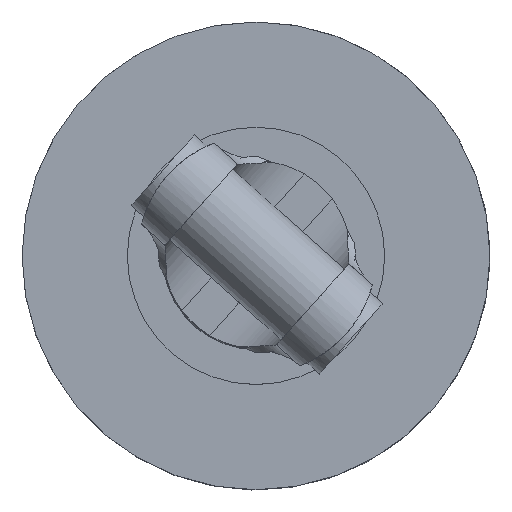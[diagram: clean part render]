
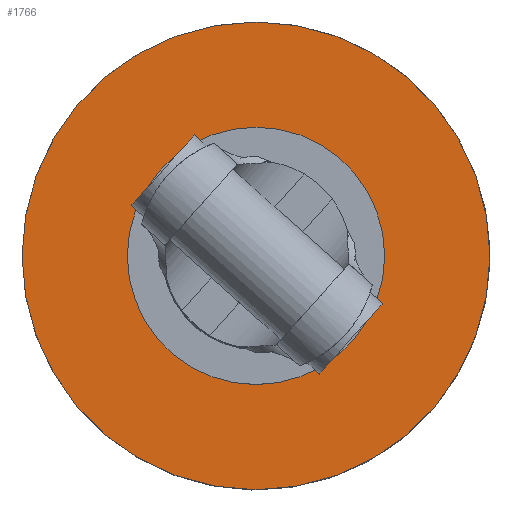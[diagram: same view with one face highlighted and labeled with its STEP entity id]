
A CAD part, top view. The second image highlights one B-rep face of the part: STEP entity #1766.
In plain terms, the highlighted planar face has unit normal (0, 0, 1).
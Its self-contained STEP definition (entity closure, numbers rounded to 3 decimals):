
#13 = CIRCLE ( 'NONE', #3990, 25. ) ;
#36 = ORIENTED_EDGE ( 'NONE', *, *, #2587, .F. ) ;
#85 = CARTESIAN_POINT ( 'NONE',  ( 0., 0., -944.89 ) ) ;
#97 = AXIS2_PLACEMENT_3D ( 'NONE', #1570, #1864, #1207 ) ;
#128 = DIRECTION ( 'NONE',  ( 0., 0., 1. ) ) ;
#138 = VERTEX_POINT ( 'NONE', #3726 ) ;
#205 = CARTESIAN_POINT ( 'NONE',  ( 0., 22., -944.89 ) ) ;
#347 = DIRECTION ( 'NONE',  ( 1., 0., 0. ) ) ;
#507 = AXIS2_PLACEMENT_3D ( 'NONE', #85, #128, #3986 ) ;
#762 = EDGE_LOOP ( 'NONE', ( #2927, #36 ) ) ;
#964 = AXIS2_PLACEMENT_3D ( 'NONE', #1838, #3414, #1526 ) ;
#1207 = DIRECTION ( 'NONE',  ( 1., 0., 0. ) ) ;
#1297 = DIRECTION ( 'NONE',  ( 0., 0., -1. ) ) ;
#1490 = DIRECTION ( 'NONE',  ( 0., 1., 0. ) ) ;
#1526 = DIRECTION ( 'NONE',  ( 1., 0., 0. ) ) ;
#1538 = EDGE_CURVE ( 'NONE', #3354, #2193, #13, .T. ) ;
#1570 = CARTESIAN_POINT ( 'NONE',  ( 0., 0., -944.89 ) ) ;
#1766 = ADVANCED_FACE ( 'NONE', ( #3398, #3712 ), #1821, .F. ) ;
#1821 = PLANE ( 'NONE',  #2125 ) ;
#1838 = CARTESIAN_POINT ( 'NONE',  ( 0., 0., -944.89 ) ) ;
#1864 = DIRECTION ( 'NONE',  ( 0., 0., -1. ) ) ;
#1976 = ORIENTED_EDGE ( 'NONE', *, *, #3012, .F. ) ;
#2125 = AXIS2_PLACEMENT_3D ( 'NONE', #205, #3097, #1490 ) ;
#2193 = VERTEX_POINT ( 'NONE', #2258 ) ;
#2258 = CARTESIAN_POINT ( 'NONE',  ( -25., 0., -944.89 ) ) ;
#2323 = CARTESIAN_POINT ( 'NONE',  ( 13.75, 0., -944.89 ) ) ;
#2476 = ORIENTED_EDGE ( 'NONE', *, *, #3666, .F. ) ;
#2587 = EDGE_CURVE ( 'NONE', #2193, #3354, #4141, .T. ) ;
#2927 = ORIENTED_EDGE ( 'NONE', *, *, #1538, .F. ) ;
#3012 = EDGE_CURVE ( 'NONE', #138, #3233, #3941, .T. ) ;
#3097 = DIRECTION ( 'NONE',  ( 0., 0., -1. ) ) ;
#3233 = VERTEX_POINT ( 'NONE', #2323 ) ;
#3354 = VERTEX_POINT ( 'NONE', #3386 ) ;
#3386 = CARTESIAN_POINT ( 'NONE',  ( 25., 0., -944.89 ) ) ;
#3392 = EDGE_LOOP ( 'NONE', ( #2476, #1976 ) ) ;
#3398 = FACE_OUTER_BOUND ( 'NONE', #762, .T. ) ;
#3414 = DIRECTION ( 'NONE',  ( 0., 0., 1. ) ) ;
#3666 = EDGE_CURVE ( 'NONE', #3233, #138, #4091, .T. ) ;
#3712 = FACE_BOUND ( 'NONE', #3392, .T. ) ;
#3726 = CARTESIAN_POINT ( 'NONE',  ( -13.75, 0., -944.89 ) ) ;
#3848 = CARTESIAN_POINT ( 'NONE',  ( 0., 0., -944.89 ) ) ;
#3941 = CIRCLE ( 'NONE', #964, 13.75 ) ;
#3986 = DIRECTION ( 'NONE',  ( 1., 0., 0. ) ) ;
#3990 = AXIS2_PLACEMENT_3D ( 'NONE', #3848, #1297, #347 ) ;
#4091 = CIRCLE ( 'NONE', #507, 13.75 ) ;
#4141 = CIRCLE ( 'NONE', #97, 25. ) ;
